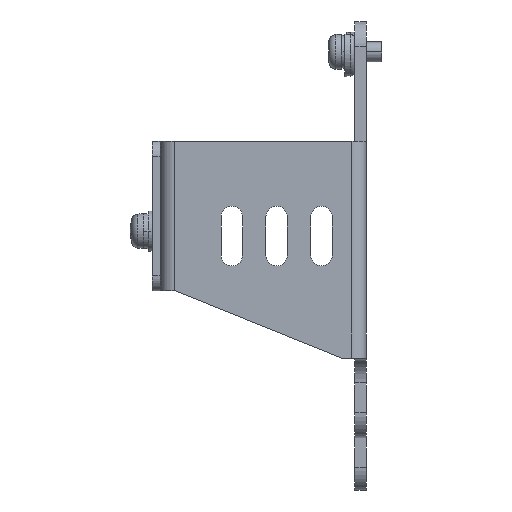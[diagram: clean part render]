
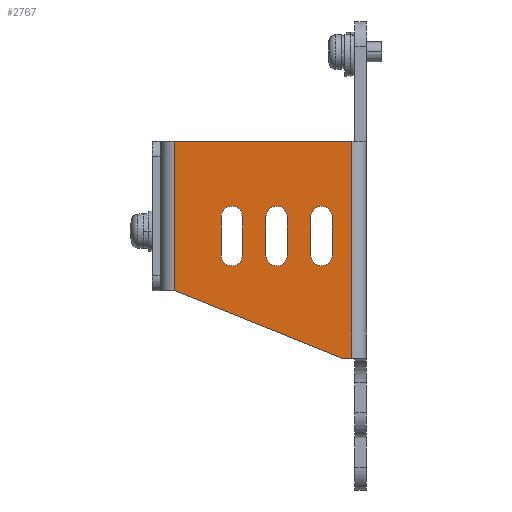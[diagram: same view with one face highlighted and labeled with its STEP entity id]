
A CAD part, left-side view. The second image highlights one B-rep face of the part: STEP entity #2767.
In plain terms, the highlighted planar face has unit normal (-1, 0, 0).
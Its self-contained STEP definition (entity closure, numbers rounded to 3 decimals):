
#509=DIRECTION('',(0.,0.,1.));
#510=VECTOR('',#509,43.5);
#511=CARTESIAN_POINT('',(-52.,2.9,26.5));
#512=LINE('',#511,#510);
#527=DIRECTION('',(0.,1.,0.));
#528=VECTOR('',#527,35.6);
#529=CARTESIAN_POINT('',(-52.,2.9,70.));
#530=LINE('',#529,#528);
#531=DIRECTION('',(0.,-1.,0.));
#532=VECTOR('',#531,2.1);
#533=CARTESIAN_POINT('',(-52.,5.,26.5));
#534=LINE('',#533,#532);
#535=DIRECTION('',(0.,-0.927,-0.375));
#536=VECTOR('',#535,36.025);
#537=CARTESIAN_POINT('',(-52.,38.4,40.));
#538=LINE('',#537,#536);
#539=DIRECTION('',(0.,-1.,0.));
#540=VECTOR('',#539,0.1);
#541=CARTESIAN_POINT('',(-52.,38.5,40.));
#542=LINE('',#541,#540);
#543=CARTESIAN_POINT('',(-52.,9.,47.15));
#544=DIRECTION('',(-1.,0.,0.));
#545=DIRECTION('',(0.,1.,0.));
#546=AXIS2_PLACEMENT_3D('',#543,#544,#545);
#548=DIRECTION('',(0.,0.,-1.));
#549=VECTOR('',#548,7.7);
#550=CARTESIAN_POINT('',(-52.,6.85,54.85));
#551=LINE('',#550,#549);
#552=CARTESIAN_POINT('',(-52.,9.,54.85));
#553=DIRECTION('',(-1.,0.,0.));
#554=DIRECTION('',(0.,-1.,0.));
#555=AXIS2_PLACEMENT_3D('',#552,#553,#554);
#557=DIRECTION('',(0.,0.,1.));
#558=VECTOR('',#557,7.7);
#559=CARTESIAN_POINT('',(-52.,11.15,47.15));
#560=LINE('',#559,#558);
#561=CARTESIAN_POINT('',(-52.,18.,47.15));
#562=DIRECTION('',(-1.,0.,0.));
#563=DIRECTION('',(0.,1.,0.));
#564=AXIS2_PLACEMENT_3D('',#561,#562,#563);
#566=DIRECTION('',(0.,0.,-1.));
#567=VECTOR('',#566,7.7);
#568=CARTESIAN_POINT('',(-52.,15.85,54.85));
#569=LINE('',#568,#567);
#570=CARTESIAN_POINT('',(-52.,18.,54.85));
#571=DIRECTION('',(-1.,0.,0.));
#572=DIRECTION('',(0.,-1.,0.));
#573=AXIS2_PLACEMENT_3D('',#570,#571,#572);
#575=DIRECTION('',(0.,0.,1.));
#576=VECTOR('',#575,7.7);
#577=CARTESIAN_POINT('',(-52.,20.15,47.15));
#578=LINE('',#577,#576);
#579=CARTESIAN_POINT('',(-52.,27.,47.15));
#580=DIRECTION('',(-1.,0.,0.));
#581=DIRECTION('',(0.,1.,0.));
#582=AXIS2_PLACEMENT_3D('',#579,#580,#581);
#584=DIRECTION('',(0.,0.,-1.));
#585=VECTOR('',#584,7.7);
#586=CARTESIAN_POINT('',(-52.,24.85,54.85));
#587=LINE('',#586,#585);
#588=CARTESIAN_POINT('',(-52.,27.,54.85));
#589=DIRECTION('',(-1.,0.,0.));
#590=DIRECTION('',(0.,-1.,0.));
#591=AXIS2_PLACEMENT_3D('',#588,#589,#590);
#593=DIRECTION('',(0.,0.,1.));
#594=VECTOR('',#593,7.7);
#595=CARTESIAN_POINT('',(-52.,29.15,47.15));
#596=LINE('',#595,#594);
#614=DIRECTION('',(0.,0.,1.));
#615=VECTOR('',#614,30.);
#616=CARTESIAN_POINT('',(-52.,38.5,40.));
#617=LINE('',#616,#615);
#1845=CARTESIAN_POINT('',(-52.,11.15,47.15));
#1846=CARTESIAN_POINT('',(-52.,6.85,47.15));
#1847=VERTEX_POINT('',#1845);
#1848=VERTEX_POINT('',#1846);
#1849=CARTESIAN_POINT('',(-52.,11.15,54.85));
#1850=VERTEX_POINT('',#1849);
#1851=CARTESIAN_POINT('',(-52.,6.85,54.85));
#1852=VERTEX_POINT('',#1851);
#1861=CARTESIAN_POINT('',(-52.,20.15,47.15));
#1862=CARTESIAN_POINT('',(-52.,15.85,47.15));
#1863=VERTEX_POINT('',#1861);
#1864=VERTEX_POINT('',#1862);
#1865=CARTESIAN_POINT('',(-52.,20.15,54.85));
#1866=VERTEX_POINT('',#1865);
#1867=CARTESIAN_POINT('',(-52.,15.85,54.85));
#1868=VERTEX_POINT('',#1867);
#1909=CARTESIAN_POINT('',(-52.,5.,26.5));
#1910=CARTESIAN_POINT('',(-52.,2.9,26.5));
#1911=VERTEX_POINT('',#1909);
#1912=VERTEX_POINT('',#1910);
#1925=CARTESIAN_POINT('',(-52.,38.4,40.));
#1926=VERTEX_POINT('',#1925);
#1927=CARTESIAN_POINT('',(-52.,2.9,70.));
#1928=VERTEX_POINT('',#1927);
#1953=CARTESIAN_POINT('',(-52.,29.15,47.15));
#1954=CARTESIAN_POINT('',(-52.,24.85,47.15));
#1955=VERTEX_POINT('',#1953);
#1956=VERTEX_POINT('',#1954);
#1957=CARTESIAN_POINT('',(-52.,29.15,54.85));
#1958=VERTEX_POINT('',#1957);
#1959=CARTESIAN_POINT('',(-52.,24.85,54.85));
#1960=VERTEX_POINT('',#1959);
#2021=CARTESIAN_POINT('',(-52.,38.5,70.));
#2022=VERTEX_POINT('',#2021);
#2023=CARTESIAN_POINT('',(-52.,38.5,40.));
#2024=VERTEX_POINT('',#2023);
#2719=CARTESIAN_POINT('',(-52.,0.,42.538));
#2720=DIRECTION('',(-1.,0.,0.));
#2721=DIRECTION('',(0.,0.,1.));
#2722=AXIS2_PLACEMENT_3D('',#2719,#2720,#2721);
#2723=PLANE('',#2722);
#2725=ORIENTED_EDGE('',*,*,#2724,.F.);
#2726=ORIENTED_EDGE('',*,*,#2710,.F.);
#2728=ORIENTED_EDGE('',*,*,#2727,.F.);
#2730=ORIENTED_EDGE('',*,*,#2729,.F.);
#2732=ORIENTED_EDGE('',*,*,#2731,.F.);
#2734=ORIENTED_EDGE('',*,*,#2733,.T.);
#2735=EDGE_LOOP('',(#2725,#2726,#2728,#2730,#2732,#2734));
#2736=FACE_OUTER_BOUND('',#2735,.F.);
#2738=ORIENTED_EDGE('',*,*,#2737,.T.);
#2740=ORIENTED_EDGE('',*,*,#2739,.F.);
#2742=ORIENTED_EDGE('',*,*,#2741,.T.);
#2744=ORIENTED_EDGE('',*,*,#2743,.F.);
#2745=EDGE_LOOP('',(#2738,#2740,#2742,#2744));
#2746=FACE_BOUND('',#2745,.F.);
#2748=ORIENTED_EDGE('',*,*,#2747,.T.);
#2750=ORIENTED_EDGE('',*,*,#2749,.F.);
#2752=ORIENTED_EDGE('',*,*,#2751,.T.);
#2754=ORIENTED_EDGE('',*,*,#2753,.F.);
#2755=EDGE_LOOP('',(#2748,#2750,#2752,#2754));
#2756=FACE_BOUND('',#2755,.F.);
#2758=ORIENTED_EDGE('',*,*,#2757,.T.);
#2760=ORIENTED_EDGE('',*,*,#2759,.F.);
#2762=ORIENTED_EDGE('',*,*,#2761,.T.);
#2764=ORIENTED_EDGE('',*,*,#2763,.F.);
#2765=EDGE_LOOP('',(#2758,#2760,#2762,#2764));
#2766=FACE_BOUND('',#2765,.F.);
#2767=ADVANCED_FACE('',(#2736,#2746,#2756,#2766),#2723,.T.);
#547=CIRCLE('',#546,2.15);
#556=CIRCLE('',#555,2.15);
#565=CIRCLE('',#564,2.15);
#574=CIRCLE('',#573,2.15);
#583=CIRCLE('',#582,2.15);
#592=CIRCLE('',#591,2.15);
#2710=EDGE_CURVE('',#1912,#1928,#512,.T.);
#2724=EDGE_CURVE('',#1928,#2022,#530,.T.);
#2727=EDGE_CURVE('',#1911,#1912,#534,.T.);
#2729=EDGE_CURVE('',#1926,#1911,#538,.T.);
#2731=EDGE_CURVE('',#2024,#1926,#542,.T.);
#2733=EDGE_CURVE('',#2024,#2022,#617,.T.);
#2737=EDGE_CURVE('',#1847,#1848,#547,.T.);
#2739=EDGE_CURVE('',#1852,#1848,#551,.T.);
#2741=EDGE_CURVE('',#1852,#1850,#556,.T.);
#2743=EDGE_CURVE('',#1847,#1850,#560,.T.);
#2747=EDGE_CURVE('',#1863,#1864,#565,.T.);
#2749=EDGE_CURVE('',#1868,#1864,#569,.T.);
#2751=EDGE_CURVE('',#1868,#1866,#574,.T.);
#2753=EDGE_CURVE('',#1863,#1866,#578,.T.);
#2757=EDGE_CURVE('',#1955,#1956,#583,.T.);
#2759=EDGE_CURVE('',#1960,#1956,#587,.T.);
#2761=EDGE_CURVE('',#1960,#1958,#592,.T.);
#2763=EDGE_CURVE('',#1955,#1958,#596,.T.);
